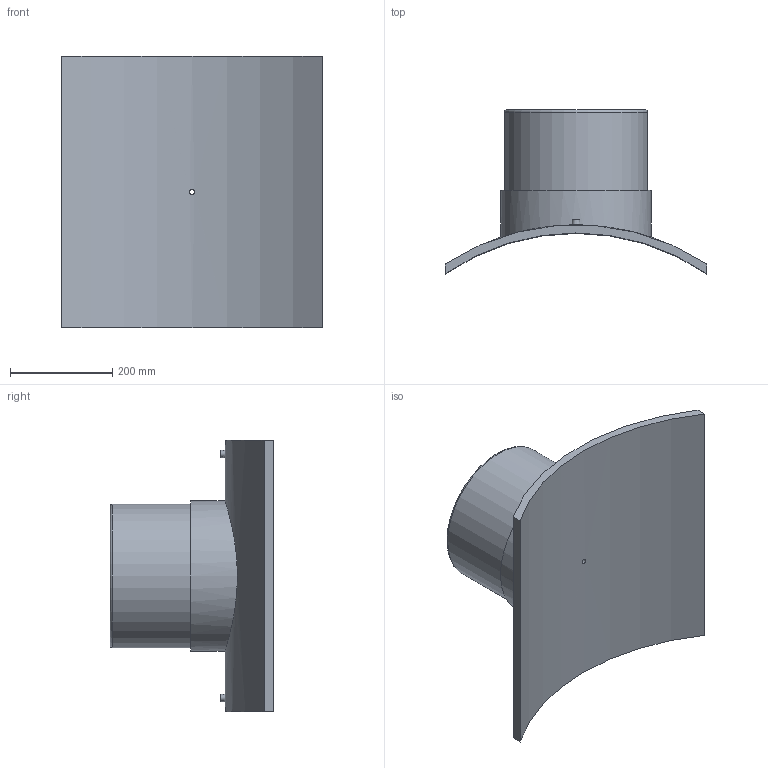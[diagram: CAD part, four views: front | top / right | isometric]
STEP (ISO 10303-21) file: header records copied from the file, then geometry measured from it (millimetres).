
FILE_DESCRIPTION(/* description */ ('PLASSON BRANCH SADDLE 900x280'),/* implementation_level */ '2;1');
FILE_NAME(/* name */ 'C:\Dropbox\99-16-3568-Processing\ElectroFusion Fittings\495803\495803900280T.ipt.stp',/* time_stamp */ '2021-02-25T09:46:10+02:00',/* author */ ('KIM'),/* organization */ (''),/* preprocessor_version */ 'ST-DEVELOPER v17.2',/* originating_system */ 'Autodesk Inventor 2019',/* authorisation */ '');
FILE_SCHEMA (('AUTOMOTIVE_DESIGN { 1 0 10303 214 3 1 1 }'));
Length unit declared in the file: millimetre
Products named in the file (1): 495803900280T
Bounding box: 511 x 320.57 x 530 mm (x, y, z)
Volume: 10283513.5 mm3; surface area: 995102.1 mm2
Topology: 1 solids, 1 shells, 29 faces, 60 edges, 43 vertices
Faces by surface type: plane 13, cylinder 12, torus 2, cone 2
Full cylindrical faces by diameter (mm): 4 x2, 9.6 x1, 10 x2, 16 x1, 224 x1, 280 x1, 294 x1
Entity records: 1086 total; most frequent: CARTESIAN_POINT 400, DIRECTION 139, ORIENTED_EDGE 120, EDGE_CURVE 60, AXIS2_PLACEMENT_3D 60, VERTEX_POINT 43, EDGE_LOOP 41, CIRCLE 30
